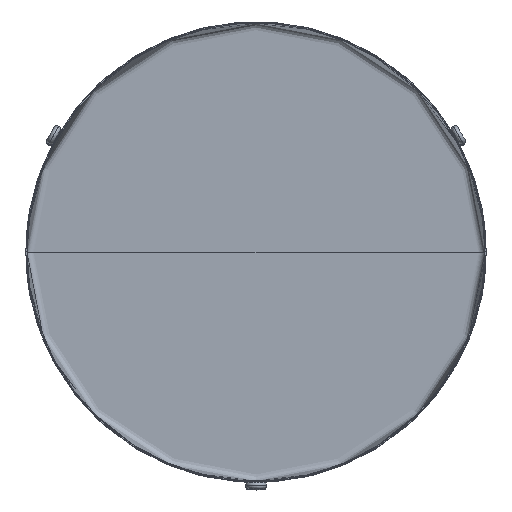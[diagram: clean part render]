
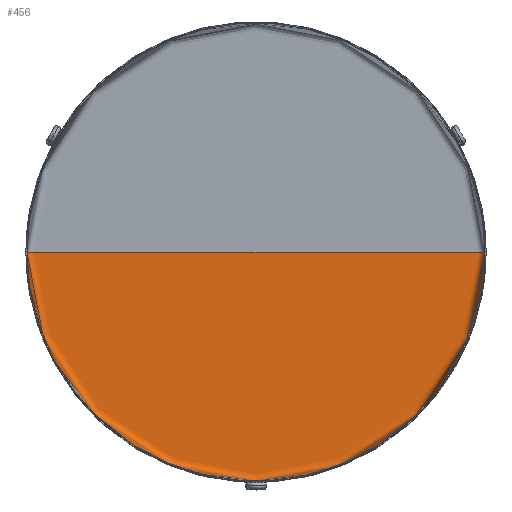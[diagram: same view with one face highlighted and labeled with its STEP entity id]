
A CAD part, top view. The second image highlights one B-rep face of the part: STEP entity #456.
In plain terms, the highlighted free-form (B-spline) face has degree [2, 2] with [7, 5] control points.
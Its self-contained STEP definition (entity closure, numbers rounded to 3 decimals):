
#36=B_SPLINE_CURVE_WITH_KNOTS('',1,(#1810,#1811),.UNSPECIFIED.,.F.,.F.,
(2,2),(137.712,275.425),.UNSPECIFIED.);
#37=B_SPLINE_CURVE_WITH_KNOTS('',1,(#1819,#1820),.UNSPECIFIED.,.F.,.F.,
(2,2),(-1069.794,0.),.UNSPECIFIED.);
#38=B_SPLINE_CURVE_WITH_KNOTS('',1,(#1828,#1829),.UNSPECIFIED.,.F.,.F.,
(2,2),(0.,1069.794),.UNSPECIFIED.);
#130=(
BOUNDED_SURFACE()
B_SPLINE_SURFACE(2,2,((#1767,#1768,#1769,#1770,#1771),(#1772,#1773,#1774,
#1775,#1776),(#1777,#1778,#1779,#1780,#1781),(#1782,#1783,#1784,#1785,#1786),
(#1787,#1788,#1789,#1790,#1791),(#1792,#1793,#1794,#1795,#1796),(#1797,
#1798,#1799,#1800,#1801)),.UNSPECIFIED.,.F.,.F.,.F.)
B_SPLINE_SURFACE_WITH_KNOTS((3,2,2,3),(3,2,3),(0.,871.199,920.833,
1250.354),(137.712,206.569,275.425),
 .UNSPECIFIED.)
GEOMETRIC_REPRESENTATION_ITEM()
RATIONAL_B_SPLINE_SURFACE(((1.,0.707,1.,0.707,1.),
(1.,0.707,1.,0.707,1.),(1.,0.707,1.,
0.707,1.),(0.707,0.5,0.707,0.5,0.707),
(1.,0.707,1.,0.707,1.),(1.,0.707,1.,
0.707,1.),(1.,0.707,1.,0.707,1.)))
REPRESENTATION_ITEM('')
SURFACE()
);
#456=ADVANCED_FACE('',(#484),#130,.T.);
#484=FACE_OUTER_BOUND('',#512,.T.);
#512=EDGE_LOOP('',(#560,#561,#562));
#560=ORIENTED_EDGE('',*,*,#976,.T.);
#561=ORIENTED_EDGE('',*,*,#977,.T.);
#562=ORIENTED_EDGE('',*,*,#978,.T.);
#664=PCURVE('',#130,#768);
#665=PCURVE('',#130,#769);
#666=PCURVE('',#130,#770);
#768=DEFINITIONAL_REPRESENTATION('',(#36),#14119);
#769=DEFINITIONAL_REPRESENTATION('',(#37),#14119);
#770=DEFINITIONAL_REPRESENTATION('',(#38),#14119);
#872=SURFACE_CURVE('',#1084,(#664),.PCURVE_S1.);
#873=SURFACE_CURVE('',#1085,(#665),.PCURVE_S1.);
#874=SURFACE_CURVE('',#1086,(#666),.PCURVE_S1.);
#976=EDGE_CURVE('',#1176,#1177,#872,.T.);
#977=EDGE_CURVE('',#1177,#1178,#873,.T.);
#978=EDGE_CURVE('',#1178,#1176,#874,.T.);
#1084=(
BOUNDED_CURVE()
B_SPLINE_CURVE(2,(#1805,#1806,#1807,#1808,#1809),.UNSPECIFIED.,.F.,.F.)
B_SPLINE_CURVE_WITH_KNOTS((3,2,3),(137.712,206.569,275.425),
 .UNSPECIFIED.)
CURVE()
GEOMETRIC_REPRESENTATION_ITEM()
RATIONAL_B_SPLINE_CURVE((1.,0.707,1.,0.707,1.))
REPRESENTATION_ITEM('')
);
#1085=(
BOUNDED_CURVE()
B_SPLINE_CURVE(2,(#1812,#1813,#1814,#1815,#1816,#1817,#1818),
 .UNSPECIFIED.,.F.,.F.)
B_SPLINE_CURVE_WITH_KNOTS((3,2,2,3),(-1069.794,-920.833,
-871.199,0.),.UNSPECIFIED.)
CURVE()
GEOMETRIC_REPRESENTATION_ITEM()
RATIONAL_B_SPLINE_CURVE((1.,1.,1.,0.707,1.,1.,1.))
REPRESENTATION_ITEM('')
);
#1086=(
BOUNDED_CURVE()
B_SPLINE_CURVE(2,(#1821,#1822,#1823,#1824,#1825,#1826,#1827),
 .UNSPECIFIED.,.F.,.F.)
B_SPLINE_CURVE_WITH_KNOTS((3,2,2,3),(0.,871.199,920.833,
1069.794),.UNSPECIFIED.)
CURVE()
GEOMETRIC_REPRESENTATION_ITEM()
RATIONAL_B_SPLINE_CURVE((1.,1.,1.,0.707,1.,1.,1.))
REPRESENTATION_ITEM('')
);
#1176=VERTEX_POINT('',#1802);
#1177=VERTEX_POINT('',#1803);
#1178=VERTEX_POINT('',#1804);
#1767=CARTESIAN_POINT('',(0.825,0.508,342.979));
#1768=CARTESIAN_POINT('',(0.825,0.508,342.979));
#1769=CARTESIAN_POINT('',(0.825,0.508,342.979));
#1770=CARTESIAN_POINT('',(0.825,0.508,342.979));
#1771=CARTESIAN_POINT('',(0.825,0.508,342.979));
#1772=CARTESIAN_POINT('',(-95.675,0.508,342.979));
#1773=CARTESIAN_POINT('',(-95.675,-95.992,342.979));
#1774=CARTESIAN_POINT('',(0.825,-95.992,342.979));
#1775=CARTESIAN_POINT('',(97.325,-95.992,342.979));
#1776=CARTESIAN_POINT('',(97.325,0.508,342.979));
#1777=CARTESIAN_POINT('',(-192.175,0.508,342.979));
#1778=CARTESIAN_POINT('',(-192.175,-192.492,342.979));
#1779=CARTESIAN_POINT('',(0.825,-192.492,342.979));
#1780=CARTESIAN_POINT('',(193.825,-192.492,342.979));
#1781=CARTESIAN_POINT('',(193.825,0.508,342.979));
#1782=CARTESIAN_POINT('',(-198.175,0.508,342.979));
#1783=CARTESIAN_POINT('',(-198.175,-198.492,342.979));
#1784=CARTESIAN_POINT('',(0.825,-198.492,342.979));
#1785=CARTESIAN_POINT('',(199.825,-198.492,342.979));
#1786=CARTESIAN_POINT('',(199.825,0.508,342.979));
#1787=CARTESIAN_POINT('',(-198.175,0.508,348.979));
#1788=CARTESIAN_POINT('',(-198.175,-198.492,348.979));
#1789=CARTESIAN_POINT('',(0.825,-198.492,348.979));
#1790=CARTESIAN_POINT('',(199.825,-198.492,348.979));
#1791=CARTESIAN_POINT('',(199.825,0.508,348.979));
#1792=CARTESIAN_POINT('',(-198.175,0.508,385.479));
#1793=CARTESIAN_POINT('',(-198.175,-198.492,385.479));
#1794=CARTESIAN_POINT('',(0.825,-198.492,385.479));
#1795=CARTESIAN_POINT('',(199.825,-198.492,385.479));
#1796=CARTESIAN_POINT('',(199.825,0.508,385.479));
#1797=CARTESIAN_POINT('',(-198.175,0.508,421.979));
#1798=CARTESIAN_POINT('',(-198.175,-198.492,421.979));
#1799=CARTESIAN_POINT('',(0.825,-198.492,421.979));
#1800=CARTESIAN_POINT('',(199.825,-198.492,421.979));
#1801=CARTESIAN_POINT('',(199.825,0.508,421.979));
#1802=CARTESIAN_POINT('',(-198.175,0.508,381.979));
#1803=CARTESIAN_POINT('',(199.825,0.508,381.979));
#1804=CARTESIAN_POINT('',(0.825,0.508,342.979));
#1805=CARTESIAN_POINT('',(-198.175,0.508,381.979));
#1806=CARTESIAN_POINT('',(-198.175,-198.492,381.979));
#1807=CARTESIAN_POINT('',(0.825,-198.492,381.979));
#1808=CARTESIAN_POINT('',(199.825,-198.492,381.979));
#1809=CARTESIAN_POINT('',(199.825,0.508,381.979));
#1810=CARTESIAN_POINT('',(1069.794,137.712));
#1811=CARTESIAN_POINT('',(1069.794,275.425));
#1812=CARTESIAN_POINT('',(199.825,0.508,381.979));
#1813=CARTESIAN_POINT('',(199.825,0.508,365.479));
#1814=CARTESIAN_POINT('',(199.825,0.508,348.979));
#1815=CARTESIAN_POINT('',(199.825,0.508,342.979));
#1816=CARTESIAN_POINT('',(193.825,0.508,342.979));
#1817=CARTESIAN_POINT('',(97.325,0.508,342.979));
#1818=CARTESIAN_POINT('',(0.825,0.508,342.979));
#1819=CARTESIAN_POINT('',(1069.794,275.425));
#1820=CARTESIAN_POINT('',(0.,275.425));
#1821=CARTESIAN_POINT('',(0.825,0.508,342.979));
#1822=CARTESIAN_POINT('',(-95.675,0.508,342.979));
#1823=CARTESIAN_POINT('',(-192.175,0.508,342.979));
#1824=CARTESIAN_POINT('',(-198.175,0.508,342.979));
#1825=CARTESIAN_POINT('',(-198.175,0.508,348.979));
#1826=CARTESIAN_POINT('',(-198.175,0.508,365.479));
#1827=CARTESIAN_POINT('',(-198.175,0.508,381.979));
#1828=CARTESIAN_POINT('',(0.,137.712));
#1829=CARTESIAN_POINT('',(1069.794,137.712));
#14119=(
GEOMETRIC_REPRESENTATION_CONTEXT(2)
PARAMETRIC_REPRESENTATION_CONTEXT()
REPRESENTATION_CONTEXT('pspace','')
);
